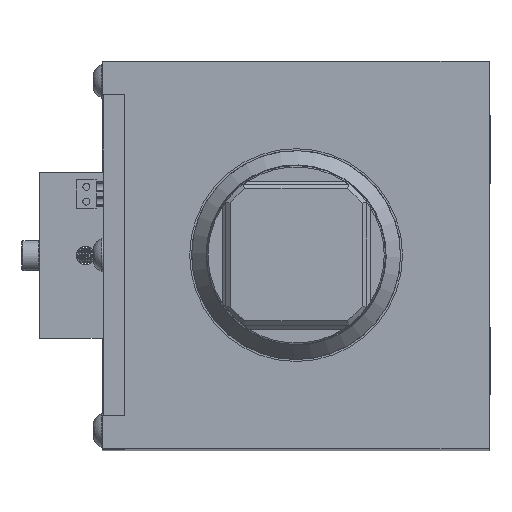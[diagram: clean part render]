
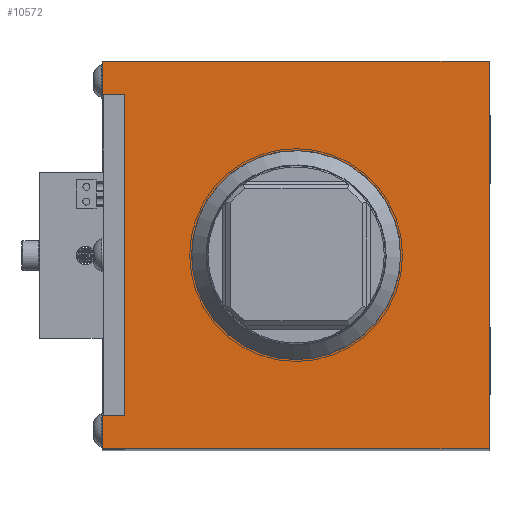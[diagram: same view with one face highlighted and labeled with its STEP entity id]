
A CAD part, top view. The second image highlights one B-rep face of the part: STEP entity #10572.
In plain terms, the highlighted planar face has unit normal (0, 0, 1).
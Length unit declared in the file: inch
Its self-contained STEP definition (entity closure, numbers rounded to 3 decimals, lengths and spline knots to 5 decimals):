
#325=FACE_BOUND('',#1733,.T.);
#537=PLANE('',#11723);
#1071=FACE_OUTER_BOUND('',#1732,.T.);
#1732=EDGE_LOOP('',(#9112,#9113,#9114,#9115,#9116,#9117,#9118,#9119));
#1733=EDGE_LOOP('',(#9120,#9121));
#2306=CIRCLE('',#11721,1.167);
#2307=CIRCLE('',#11722,1.167);
#2921=LINE('',#23050,#3597);
#3024=LINE('',#23702,#3700);
#3026=LINE('',#23706,#3702);
#3031=LINE('',#23715,#3707);
#3034=LINE('',#23721,#3710);
#3037=LINE('',#23730,#3713);
#3062=LINE('',#23791,#3738);
#3091=LINE('',#23950,#3767);
#3597=VECTOR('',#13649,0.3937);
#3700=VECTOR('',#14156,0.3937);
#3702=VECTOR('',#14160,0.3937);
#3707=VECTOR('',#14169,0.3937);
#3710=VECTOR('',#14174,0.3937);
#3713=VECTOR('',#14185,0.3937);
#3738=VECTOR('',#14254,0.3937);
#3767=VECTOR('',#14375,0.3937);
#4502=VERTEX_POINT('',#23036);
#4508=VERTEX_POINT('',#23048);
#4676=VERTEX_POINT('',#23700);
#4677=VERTEX_POINT('',#23704);
#4678=VERTEX_POINT('',#23712);
#4679=VERTEX_POINT('',#23714);
#4680=VERTEX_POINT('',#23718);
#4681=VERTEX_POINT('',#23720);
#4795=VERTEX_POINT('',#24145);
#4796=VERTEX_POINT('',#24147);
#5807=EDGE_CURVE('',#4502,#4508,#2921,.T.);
#6049=EDGE_CURVE('',#4508,#4676,#3024,.T.);
#6051=EDGE_CURVE('',#4677,#4502,#3026,.T.);
#6056=EDGE_CURVE('',#4678,#4679,#3031,.T.);
#6059=EDGE_CURVE('',#4680,#4681,#3034,.T.);
#6064=EDGE_CURVE('',#4677,#4680,#3037,.T.);
#6095=EDGE_CURVE('',#4679,#4676,#3062,.T.);
#6151=EDGE_CURVE('',#4678,#4681,#3091,.T.);
#6242=EDGE_CURVE('',#4796,#4795,#2306,.T.);
#6243=EDGE_CURVE('',#4795,#4796,#2307,.T.);
#9112=ORIENTED_EDGE('',*,*,#6049,.T.);
#9113=ORIENTED_EDGE('',*,*,#6095,.F.);
#9114=ORIENTED_EDGE('',*,*,#6056,.F.);
#9115=ORIENTED_EDGE('',*,*,#6151,.T.);
#9116=ORIENTED_EDGE('',*,*,#6059,.F.);
#9117=ORIENTED_EDGE('',*,*,#6064,.F.);
#9118=ORIENTED_EDGE('',*,*,#6051,.T.);
#9119=ORIENTED_EDGE('',*,*,#5807,.T.);
#9120=ORIENTED_EDGE('',*,*,#6242,.T.);
#9121=ORIENTED_EDGE('',*,*,#6243,.T.);
#10572=ADVANCED_FACE('',(#1071,#325),#537,.T.);
#11721=AXIS2_PLACEMENT_3D('',#24148,#14597,#14598);
#11722=AXIS2_PLACEMENT_3D('',#24149,#14599,#14600);
#11723=AXIS2_PLACEMENT_3D('',#24150,#14601,#14602);
#13649=DIRECTION('',(0.,-1.,0.));
#14156=DIRECTION('',(-1.,0.,0.));
#14160=DIRECTION('',(1.,0.,0.));
#14169=DIRECTION('',(-1.,0.,0.));
#14174=DIRECTION('',(1.,0.,0.));
#14185=DIRECTION('',(0.,1.,0.));
#14254=DIRECTION('',(0.,1.,0.));
#14375=DIRECTION('',(0.,1.,0.));
#14597=DIRECTION('center_axis',(0.,0.,-1.));
#14598=DIRECTION('ref_axis',(-1.,0.,0.));
#14599=DIRECTION('center_axis',(0.,0.,-1.));
#14600=DIRECTION('ref_axis',(-1.,0.,0.));
#14601=DIRECTION('center_axis',(0.,0.,1.));
#14602=DIRECTION('ref_axis',(1.,0.,0.));
#23036=CARTESIAN_POINT('',(-1.9155,1.7915,0.));
#23048=CARTESIAN_POINT('',(-1.9155,-1.7915,0.));
#23050=CARTESIAN_POINT('',(-1.9155,0.,0.));
#23700=CARTESIAN_POINT('',(-2.1655,-1.7915,0.));
#23702=CARTESIAN_POINT('',(-1.08275,-1.7915,0.));
#23704=CARTESIAN_POINT('',(-2.1655,1.7915,0.));
#23706=CARTESIAN_POINT('',(-1.08275,1.7915,0.));
#23712=CARTESIAN_POINT('',(2.1555,-2.1655,0.));
#23714=CARTESIAN_POINT('',(-2.1655,-2.1655,0.));
#23715=CARTESIAN_POINT('',(2.1655,-2.1655,0.));
#23718=CARTESIAN_POINT('',(-2.1655,2.1655,0.));
#23720=CARTESIAN_POINT('',(2.1555,2.1655,0.));
#23721=CARTESIAN_POINT('',(-2.1655,2.1655,0.));
#23730=CARTESIAN_POINT('',(-2.1655,-2.1655,0.));
#23791=CARTESIAN_POINT('',(-2.1655,-2.1655,0.));
#23950=CARTESIAN_POINT('',(2.1555,0.,0.));
#24145=CARTESIAN_POINT('',(1.167,0.,0.));
#24147=CARTESIAN_POINT('',(-1.167,0.,0.));
#24148=CARTESIAN_POINT('Origin',(0.,0.,0.));
#24149=CARTESIAN_POINT('Origin',(0.,0.,0.));
#24150=CARTESIAN_POINT('Origin',(0.,0.,0.));
